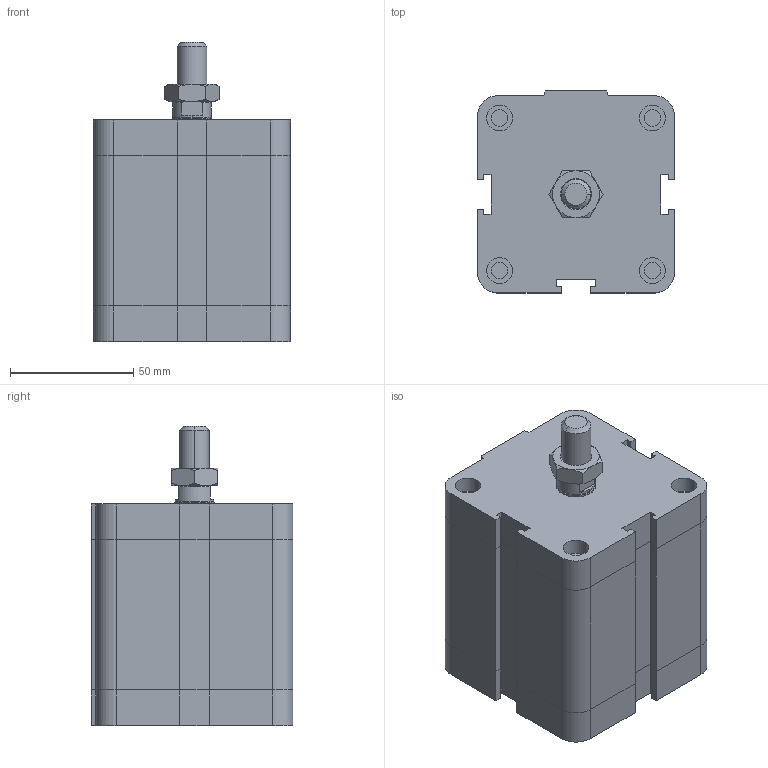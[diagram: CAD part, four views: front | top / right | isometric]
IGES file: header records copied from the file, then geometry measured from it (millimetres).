
Global section: file name: No Iges File Name specified; native system: Autodesk Inventor 2009; preprocessor: AutoDesk Inventor Iges Exporter R2009; author: rivolro1; date: 20081219.162445; units: millimetre
Bounding box: 80 x 82 x 121.5 mm (x, y, z)
Volume: 550551.1 mm3; surface area: 58415.3 mm2
Topology: 3 solids, 3 shells, 216 faces, 472 edges, 282 vertices
Faces by surface type: plane 121, bspline 37, cylinder 20, cone 20, revolution 18
